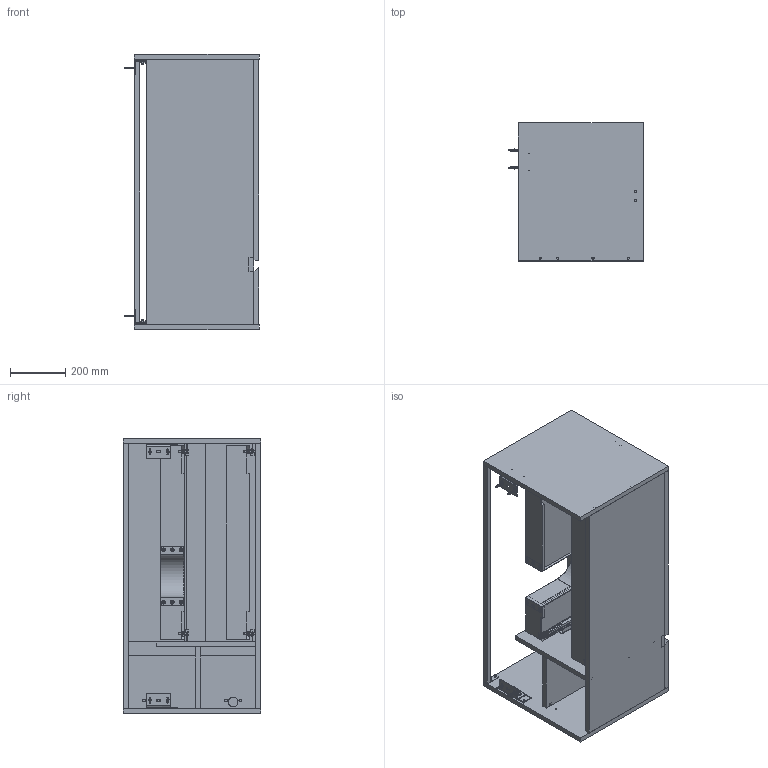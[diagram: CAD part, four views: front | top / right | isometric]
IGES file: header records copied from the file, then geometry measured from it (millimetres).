
Global section: file name: 3D Dosyası,; native system: Autodesk Inventor 2024; preprocessor: unknown; author: pc19; date: 20250624.094843; units: millimetre
Bounding box: 489.7 x 500 x 1000 mm (x, y, z)
Volume: 36815680.2 mm3; surface area: 5967869.8 mm2
Topology: 51 solids, 55 shells, 3213 faces, 8391 edges, 5307 vertices
Faces by surface type: bspline 3213
